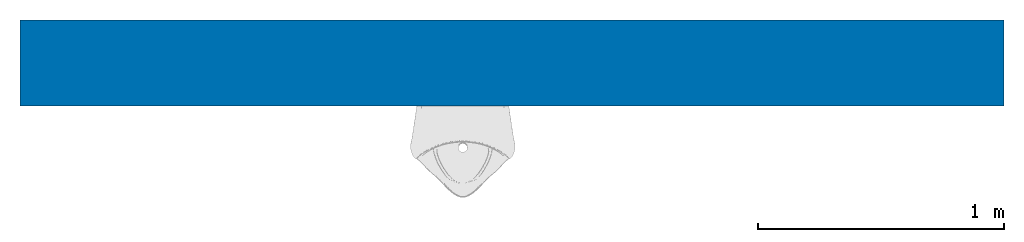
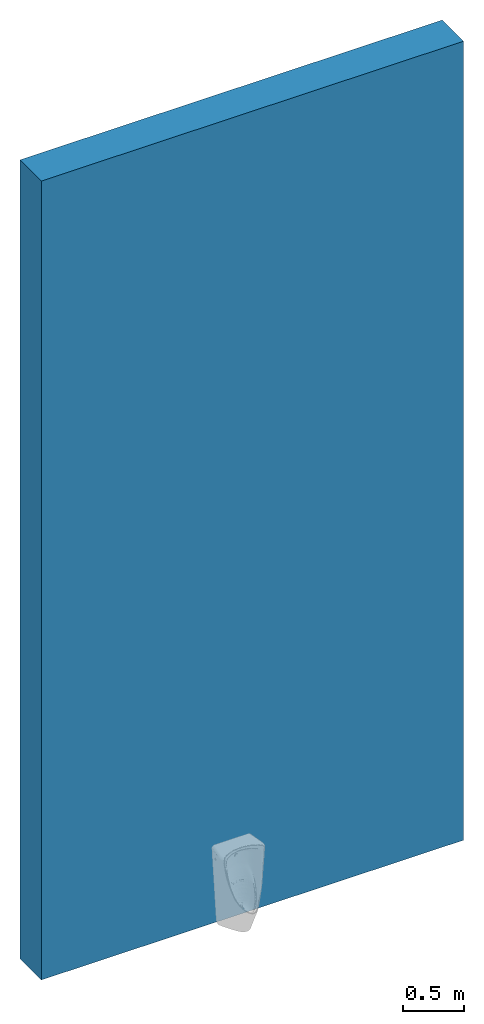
# One storey, incomplete: 1 wall.
"""IFC2X3 building model written with IfcOpenShell, lengths in millimetres."""

from ifc_helpers import new_model, entity, si_unit, converted_unit, derived_unit, direction, frame, frame_2d, origin, place, context, subcontext, project, spatial, rectangle, extrude, type_object, element, save


model = new_model("IFC2X3")

# Units and contexts
model_context = context("Model", 3, precision=0.01, world=origin(), true_north=direction((6.12303176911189e-17, 1.0)))
body_context = subcontext(model_context, "Body", "Model", "MODEL_VIEW")
ifc_project = project(units=[si_unit("LENGTHUNIT", "METRE", prefix="MILLI"), si_unit("AREAUNIT", "SQUARE_METRE"), si_unit("VOLUMEUNIT", "CUBIC_METRE"), converted_unit("PLANEANGLEUNIT", "DEGREE", entity("IfcRatioMeasure", 0.0174532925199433), si_unit("PLANEANGLEUNIT", "RADIAN"), dimensions=[0, 0, 0, 0, 0, 0, 0]), si_unit("MASSUNIT", "GRAM", prefix="KILO"), derived_unit("MASSDENSITYUNIT", [(si_unit("MASSUNIT", "GRAM", prefix="KILO"), 1), (si_unit("LENGTHUNIT", "METRE"), -3)]), derived_unit("MOMENTOFINERTIAUNIT", [(si_unit("LENGTHUNIT", "METRE"), 4)]), si_unit("TIMEUNIT", "SECOND"), si_unit("FREQUENCYUNIT", "HERTZ"), si_unit("THERMODYNAMICTEMPERATUREUNIT", "DEGREE_CELSIUS"), derived_unit("THERMALTRANSMITTANCEUNIT", [(si_unit("MASSUNIT", "GRAM", prefix="KILO"), 1), (si_unit("THERMODYNAMICTEMPERATUREUNIT", "KELVIN"), -1), (si_unit("TIMEUNIT", "SECOND"), -3)]), derived_unit("VOLUMETRICFLOWRATEUNIT", [(si_unit("LENGTHUNIT", "METRE"), 3), (si_unit("TIMEUNIT", "SECOND"), -1)]), si_unit("ELECTRICCURRENTUNIT", "AMPERE"), si_unit("ELECTRICVOLTAGEUNIT", "VOLT"), si_unit("POWERUNIT", "WATT"), si_unit("FORCEUNIT", "NEWTON", prefix="KILO"), si_unit("ILLUMINANCEUNIT", "LUX"), si_unit("LUMINOUSFLUXUNIT", "LUMEN"), si_unit("LUMINOUSINTENSITYUNIT", "CANDELA"), derived_unit("USERDEFINED", [(si_unit("MASSUNIT", "GRAM", prefix="KILO"), -1), (si_unit("LENGTHUNIT", "METRE"), -2), (si_unit("TIMEUNIT", "SECOND"), 3), (si_unit("LUMINOUSFLUXUNIT", "LUMEN"), 1)]), derived_unit("LINEARVELOCITYUNIT", [(si_unit("LENGTHUNIT", "METRE"), 1), (si_unit("TIMEUNIT", "SECOND"), -1)]), si_unit("PRESSUREUNIT", "PASCAL"), derived_unit("USERDEFINED", [(si_unit("LENGTHUNIT", "METRE"), -2), (si_unit("MASSUNIT", "GRAM", prefix="KILO"), 1), (si_unit("TIMEUNIT", "SECOND"), -2)]), derived_unit("LINEARFORCEUNIT", [(si_unit("MASSUNIT", "GRAM", prefix="KILO"), 1), (si_unit("LENGTHUNIT", "METRE"), 1), (si_unit("TIMEUNIT", "SECOND"), -2), (si_unit("LENGTHUNIT", "METRE"), -1)]), derived_unit("PLANARFORCEUNIT", [(si_unit("MASSUNIT", "GRAM", prefix="KILO"), 1), (si_unit("LENGTHUNIT", "METRE"), 1), (si_unit("TIMEUNIT", "SECOND"), -2), (si_unit("LENGTHUNIT", "METRE"), -2)])], contexts=[model_context])

# Site, building, storey
site_placement = place(None, origin())
site = spatial("IfcSite", under=ifc_project, at=site_placement, Name="Default", CompositionType="ELEMENT")
building_placement = place(site_placement, origin())
building = spatial("IfcBuilding", under=site, at=building_placement, CompositionType="ELEMENT")
storey_placement = place(building_placement, origin())
storey = spatial("IfcBuildingStorey", under=building, at=storey_placement, Name="Level 1", CompositionType="ELEMENT", Elevation=0.0)

# Wall
wall_type = type_object("IfcWallType", Name="Basic Wall:Exterior - Brick on Mtl. Stud", PredefinedType="STANDARD")
wall_placement = place(storey_placement, frame((-1472.25009000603, -174.971654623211, 0.0)))
element("IfcWallStandardCase", 1, at=wall_placement, inside=storey, type_object=wall_type, Name="Basic Wall:Exterior - Brick on Mtl. Stud", ObjectType="Basic Wall:Exterior - Brick on Mtl. Stud", context=body_context, shape_type="SweptSolid", body=[
    extrude(rectangle(XDim=4000.0, YDim=350.0, at=frame_2d((2000.0, -2.8421709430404e-14), x_axis=(-1.0, 0.0))), origin(), (0.0, 0.0, 1.0), 8000.0),
])

save(model, "model.ifc")
